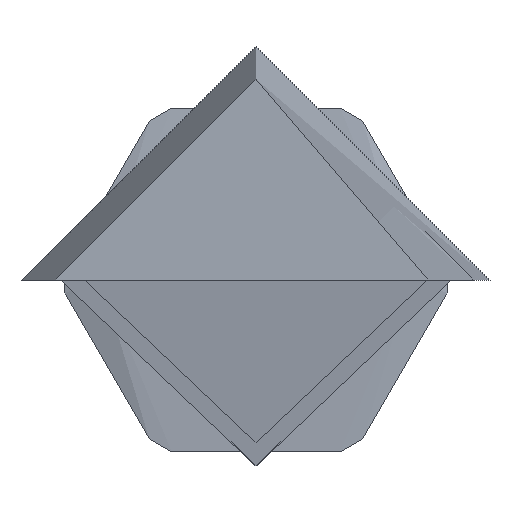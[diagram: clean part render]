
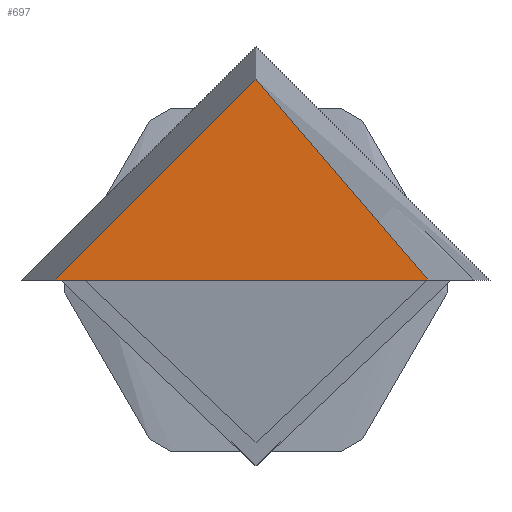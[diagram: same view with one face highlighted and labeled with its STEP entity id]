
A CAD part, left-side view. The second image highlights one B-rep face of the part: STEP entity #697.
In plain terms, the highlighted free-form (B-spline) face has degree [1, 1] with [2, 2] control points.
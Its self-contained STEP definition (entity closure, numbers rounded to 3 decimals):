
#697 = ADVANCED_FACE('',(#698,#720),#742,.T.);
#698 = FACE_BOUND('',#699,.T.);
#699 = EDGE_LOOP('',(#700,#710));
#700 = ORIENTED_EDGE('',*,*,#701,.F.);
#701 = EDGE_CURVE('',#702,#704,#706,.T.);
#702 = VERTEX_POINT('',#703);
#703 = CARTESIAN_POINT('',(0.,12.85,0.));
#704 = VERTEX_POINT('',#705);
#705 = CARTESIAN_POINT('',(0.,0.,12.85));
#706 = ( BOUNDED_CURVE() B_SPLINE_CURVE(2,(#707,#708,#709),
.UNSPECIFIED.,.F.,.F.) B_SPLINE_CURVE_WITH_KNOTS((3,3),(0.,
1.571),.PIECEWISE_BEZIER_KNOTS.) CURVE() 
GEOMETRIC_REPRESENTATION_ITEM() RATIONAL_B_SPLINE_CURVE((1.,
0.707,1.)) REPRESENTATION_ITEM('') );
#707 = CARTESIAN_POINT('',(0.,12.85,0.));
#708 = CARTESIAN_POINT('',(0.,12.85,12.85));
#709 = CARTESIAN_POINT('',(0.,0.,12.85));
#710 = ORIENTED_EDGE('',*,*,#711,.F.);
#711 = EDGE_CURVE('',#704,#702,#712,.T.);
#712 = ( BOUNDED_CURVE() B_SPLINE_CURVE(2,(#713,#714,#715,#716,#717,#718
,#719),.UNSPECIFIED.,.F.,.F.) B_SPLINE_CURVE_WITH_KNOTS((3,2,2,3),(
    1.571,3.142,4.712,6.283),
.UNSPECIFIED.) CURVE() GEOMETRIC_REPRESENTATION_ITEM() 
RATIONAL_B_SPLINE_CURVE((1.,0.707,1.,0.707,1.,
0.707,1.)) REPRESENTATION_ITEM('') );
#713 = CARTESIAN_POINT('',(0.,0.,12.85));
#714 = CARTESIAN_POINT('',(0.,-12.85,12.85));
#715 = CARTESIAN_POINT('',(0.,-12.85,0.));
#716 = CARTESIAN_POINT('',(0.,-12.85,-12.85));
#717 = CARTESIAN_POINT('',(0.,0.,-12.85));
#718 = CARTESIAN_POINT('',(0.,12.85,-12.85));
#719 = CARTESIAN_POINT('',(0.,12.85,0.));
#720 = FACE_BOUND('',#721,.T.);
#721 = EDGE_LOOP('',(#722,#734));
#722 = ORIENTED_EDGE('',*,*,#723,.T.);
#723 = EDGE_CURVE('',#724,#726,#728,.T.);
#724 = VERTEX_POINT('',#725);
#725 = CARTESIAN_POINT('',(0.,11.,0.));
#726 = VERTEX_POINT('',#727);
#727 = CARTESIAN_POINT('',(0.,-11.,0.));
#728 = ( BOUNDED_CURVE() B_SPLINE_CURVE(2,(#729,#730,#731,#732,#733),
.UNSPECIFIED.,.F.,.F.) B_SPLINE_CURVE_WITH_KNOTS((3,2,3),(0.,
1.571,3.142),.UNSPECIFIED.) CURVE() 
GEOMETRIC_REPRESENTATION_ITEM() RATIONAL_B_SPLINE_CURVE((1.,
0.707,1.,0.707,1.)) REPRESENTATION_ITEM('') );
#729 = CARTESIAN_POINT('',(0.,11.,0.));
#730 = CARTESIAN_POINT('',(0.,11.,11.));
#731 = CARTESIAN_POINT('',(0.,0.,11.));
#732 = CARTESIAN_POINT('',(0.,-11.,11.));
#733 = CARTESIAN_POINT('',(0.,-11.,0.));
#734 = ORIENTED_EDGE('',*,*,#735,.T.);
#735 = EDGE_CURVE('',#726,#724,#736,.T.);
#736 = ( BOUNDED_CURVE() B_SPLINE_CURVE(2,(#737,#738,#739,#740,#741),
.UNSPECIFIED.,.F.,.F.) B_SPLINE_CURVE_WITH_KNOTS((3,2,3),(3.142,
4.712,6.283),.PIECEWISE_BEZIER_KNOTS.) CURVE() 
GEOMETRIC_REPRESENTATION_ITEM() RATIONAL_B_SPLINE_CURVE((1.,
0.707,1.,0.707,1.)) REPRESENTATION_ITEM('') );
#737 = CARTESIAN_POINT('',(0.,-11.,0.));
#738 = CARTESIAN_POINT('',(0.,-11.,-11.));
#739 = CARTESIAN_POINT('',(0.,0.,-11.));
#740 = CARTESIAN_POINT('',(0.,11.,-11.));
#741 = CARTESIAN_POINT('',(0.,11.,0.));
#742 = B_SPLINE_SURFACE_WITH_KNOTS('',1,1,(
    (#743,#744)
    ,(#745,#746
    )),.UNSPECIFIED.,.F.,.F.,.F.,(2,2),(2,2),(-1.286,1.286),(-2.479,
    0.094),.PIECEWISE_BEZIER_KNOTS.);
#743 = CARTESIAN_POINT('',(0.,-12.86,-12.86));
#744 = CARTESIAN_POINT('',(0.,12.86,-12.86));
#745 = CARTESIAN_POINT('',(0.,-12.86,12.86));
#746 = CARTESIAN_POINT('',(0.,12.86,12.86));
